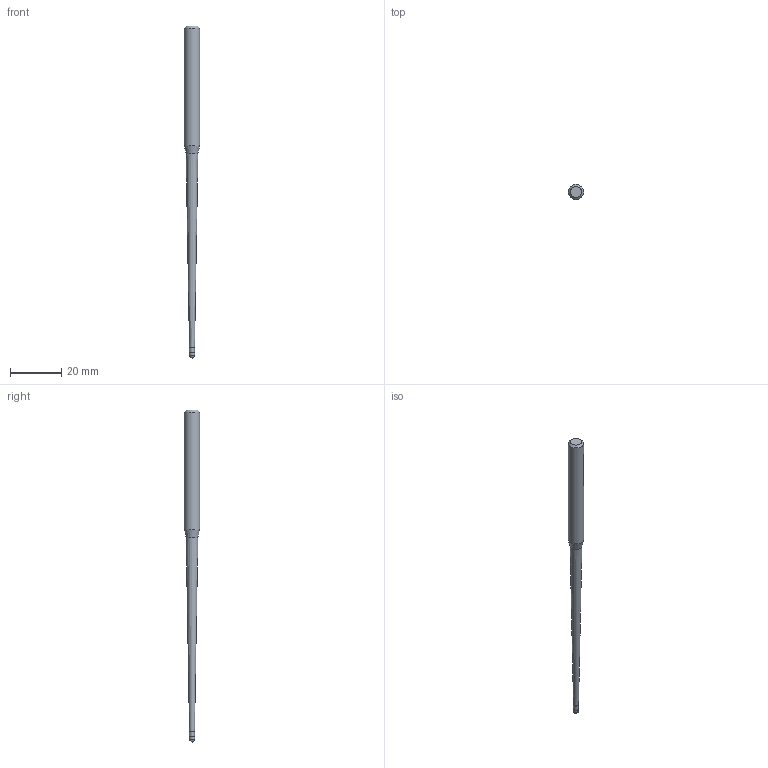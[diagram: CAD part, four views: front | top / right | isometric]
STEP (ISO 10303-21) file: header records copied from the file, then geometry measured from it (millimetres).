
FILE_DESCRIPTION((''),'2;1');
FILE_NAME('C:\Users\nsx150\AppData\Local\Temp\Mastercam 2021\SNAKH10GOD\TEMP.step','2021-10-21T13:33:11',(''),(''),'STEP Write','Mastercam 2021 ... CNC Software, Inc.','');
FILE_SCHEMA(('AUTOMOTIVE_DESIGN'));
Length unit declared in the file: millimetre
Products named in the file (1): None
Bounding box: 6 x 6 x 130 mm (x, y, z)
Volume: 2093.2 mm3; surface area: 1779 mm2
Topology: 2 solids, 2 shells, 10 faces, 16 edges, 9 vertices
Faces by surface type: plane 3, cylinder 3, cone 3, sphere 1
Full cylindrical faces by diameter (mm): 1.985 x1, 2 x1, 6 x1
Entity records: 232 total; most frequent: DIRECTION 40, CARTESIAN_POINT 28, AXIS2_PLACEMENT_3D 20, ORIENTED_EDGE 16, EDGE_LOOP 16, STYLED_ITEM 13, ADVANCED_FACE 10, FACE_BOUND 9
